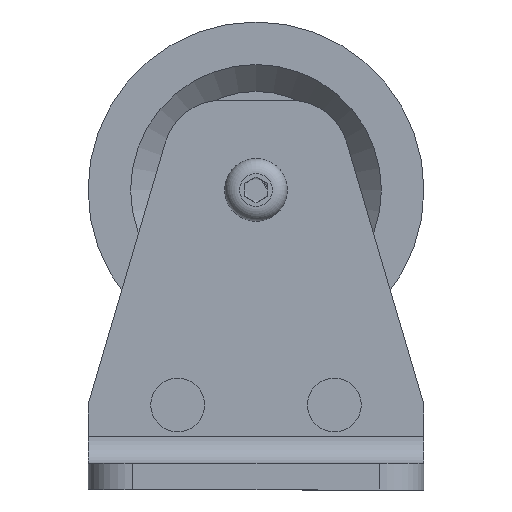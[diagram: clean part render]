
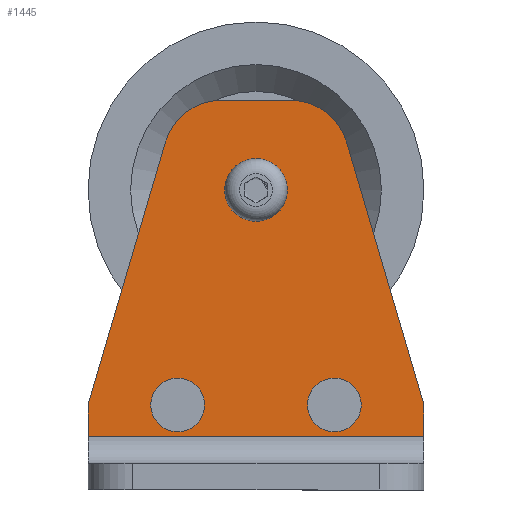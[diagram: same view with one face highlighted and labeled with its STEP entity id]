
A CAD part, front view. The second image highlights one B-rep face of the part: STEP entity #1445.
In plain terms, the highlighted planar face has unit normal (0, -1, 0) as drawn and (0, 0, 1) by its records, which use the part's own axes.
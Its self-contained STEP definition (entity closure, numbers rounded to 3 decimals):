
#110=FACE_BOUND('',#282,.T.);
#111=FACE_BOUND('',#283,.T.);
#112=FACE_BOUND('',#284,.T.);
#140=PLANE('',#1704);
#192=FACE_OUTER_BOUND('',#281,.T.);
#281=EDGE_LOOP('',(#1124,#1125,#1126,#1127,#1128,#1129,#1130,#1131));
#282=EDGE_LOOP('',(#1132));
#283=EDGE_LOOP('',(#1133));
#284=EDGE_LOOP('',(#1134));
#379=LINE('',#2453,#469);
#382=LINE('',#2459,#472);
#390=LINE('',#2493,#480);
#394=LINE('',#2502,#484);
#397=LINE('',#2509,#487);
#398=LINE('',#2511,#488);
#469=VECTOR('',#1959,10.);
#472=VECTOR('',#1964,10.);
#480=VECTOR('',#1998,10.);
#484=VECTOR('',#2008,10.);
#487=VECTOR('',#2017,10.);
#488=VECTOR('',#2020,10.);
#547=CIRCLE('',#1691,6.);
#548=CIRCLE('',#1693,6.);
#549=CIRCLE('',#1695,4.6);
#550=CIRCLE('',#1698,13.);
#551=CIRCLE('',#1701,13.);
#661=VERTEX_POINT('',#2444);
#662=VERTEX_POINT('',#2448);
#664=VERTEX_POINT('',#2457);
#673=VERTEX_POINT('',#2479);
#674=VERTEX_POINT('',#2483);
#675=VERTEX_POINT('',#2487);
#676=VERTEX_POINT('',#2491);
#677=VERTEX_POINT('',#2492);
#678=VERTEX_POINT('',#2497);
#679=VERTEX_POINT('',#2501);
#680=VERTEX_POINT('',#2505);
#820=EDGE_CURVE('',#661,#662,#379,.T.);
#823=EDGE_CURVE('',#664,#662,#382,.T.);
#834=EDGE_CURVE('',#673,#673,#547,.T.);
#836=EDGE_CURVE('',#674,#674,#548,.T.);
#838=EDGE_CURVE('',#675,#675,#549,.T.);
#839=EDGE_CURVE('',#676,#677,#390,.T.);
#842=EDGE_CURVE('',#677,#678,#550,.T.);
#844=EDGE_CURVE('',#678,#679,#394,.T.);
#846=EDGE_CURVE('',#679,#680,#551,.T.);
#848=EDGE_CURVE('',#680,#664,#397,.T.);
#849=EDGE_CURVE('',#661,#676,#398,.T.);
#1124=ORIENTED_EDGE('',*,*,#820,.T.);
#1125=ORIENTED_EDGE('',*,*,#823,.F.);
#1126=ORIENTED_EDGE('',*,*,#848,.F.);
#1127=ORIENTED_EDGE('',*,*,#846,.F.);
#1128=ORIENTED_EDGE('',*,*,#844,.F.);
#1129=ORIENTED_EDGE('',*,*,#842,.F.);
#1130=ORIENTED_EDGE('',*,*,#839,.F.);
#1131=ORIENTED_EDGE('',*,*,#849,.F.);
#1132=ORIENTED_EDGE('',*,*,#834,.T.);
#1133=ORIENTED_EDGE('',*,*,#836,.T.);
#1134=ORIENTED_EDGE('',*,*,#838,.T.);
#1445=ADVANCED_FACE('',(#192,#110,#111,#112),#140,.T.);
#1691=AXIS2_PLACEMENT_3D('',#2481,#1984,#1985);
#1693=AXIS2_PLACEMENT_3D('',#2485,#1989,#1990);
#1695=AXIS2_PLACEMENT_3D('',#2489,#1994,#1995);
#1698=AXIS2_PLACEMENT_3D('',#2498,#2003,#2004);
#1701=AXIS2_PLACEMENT_3D('',#2506,#2012,#2013);
#1704=AXIS2_PLACEMENT_3D('',#2512,#2021,#2022);
#1959=DIRECTION('',(1.,0.,0.));
#1964=DIRECTION('',(0.,-1.,0.));
#1984=DIRECTION('center_axis',(0.,0.,-1.));
#1985=DIRECTION('ref_axis',(-1.,0.,0.));
#1989=DIRECTION('center_axis',(0.,0.,-1.));
#1990=DIRECTION('ref_axis',(-1.,0.,0.));
#1994=DIRECTION('center_axis',(0.,0.,-1.));
#1995=DIRECTION('ref_axis',(-1.,0.,0.));
#1998=DIRECTION('',(0.282,0.959,0.));
#2003=DIRECTION('center_axis',(0.,0.,-1.));
#2004=DIRECTION('ref_axis',(0.,1.,0.));
#2008=DIRECTION('',(1.,0.,0.));
#2012=DIRECTION('center_axis',(0.,0.,-1.));
#2013=DIRECTION('ref_axis',(0.959,0.282,0.));
#2017=DIRECTION('',(0.282,-0.959,0.));
#2020=DIRECTION('',(0.,1.,0.));
#2021=DIRECTION('center_axis',(0.,0.,1.));
#2022=DIRECTION('ref_axis',(1.,0.,0.));
#2444=CARTESIAN_POINT('',(-37.5,12.,6.));
#2448=CARTESIAN_POINT('',(37.5,12.,6.));
#2453=CARTESIAN_POINT('',(18.75,12.,6.));
#2457=CARTESIAN_POINT('',(37.5,19.,6.));
#2459=CARTESIAN_POINT('',(37.5,0.,6.));
#2479=CARTESIAN_POINT('',(23.5,19.,6.));
#2481=CARTESIAN_POINT('Origin',(17.5,19.,6.));
#2483=CARTESIAN_POINT('',(-11.5,19.,6.));
#2485=CARTESIAN_POINT('Origin',(-17.5,19.,6.));
#2487=CARTESIAN_POINT('',(4.6,67.,6.));
#2489=CARTESIAN_POINT('Origin',(0.,67.,6.));
#2491=CARTESIAN_POINT('',(-37.5,19.,6.));
#2492=CARTESIAN_POINT('',(-20.245,77.668,6.));
#2493=CARTESIAN_POINT('',(-20.245,77.668,6.));
#2497=CARTESIAN_POINT('',(-7.773,87.,6.));
#2498=CARTESIAN_POINT('Origin',(-7.773,74.,6.));
#2501=CARTESIAN_POINT('',(7.773,87.,6.));
#2502=CARTESIAN_POINT('',(7.773,87.,6.));
#2505=CARTESIAN_POINT('',(20.245,77.668,6.));
#2506=CARTESIAN_POINT('Origin',(7.773,74.,6.));
#2509=CARTESIAN_POINT('',(37.5,19.,6.));
#2511=CARTESIAN_POINT('',(-37.5,19.,6.));
#2512=CARTESIAN_POINT('Origin',(0.,36.645,6.));
